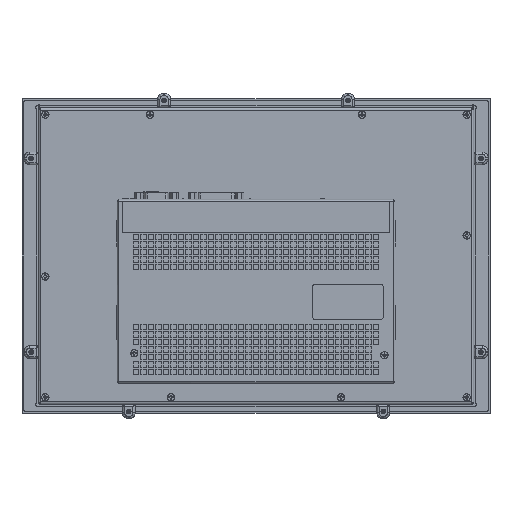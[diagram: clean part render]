
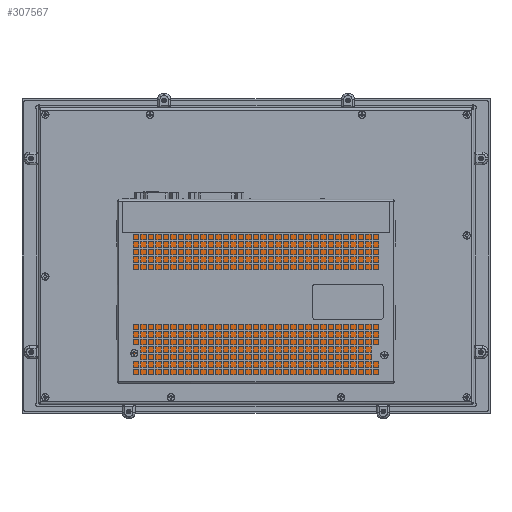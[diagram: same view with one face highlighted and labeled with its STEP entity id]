
A CAD part, front view. The second image highlights one B-rep face of the part: STEP entity #307567.
In plain terms, the highlighted planar face has unit normal (0, -1, 0) as drawn and (0, 0, 1) by its records, which use the part's own axes.
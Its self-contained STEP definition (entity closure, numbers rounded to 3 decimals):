
#1339 = LINE ( 'NONE', #277227, #98671 ) ;
#20560 = CARTESIAN_POINT ( 'NONE',  ( 95.07, 126.271, 27. ) ) ;
#20783 = LINE ( 'NONE', #112256, #106235 ) ;
#21273 = EDGE_LOOP ( 'NONE', ( #225576, #178600, #50317, #249119 ) ) ;
#41909 = CARTESIAN_POINT ( 'NONE',  ( -1.88, 126.271, 27. ) ) ;
#50317 = ORIENTED_EDGE ( 'NONE', *, *, #65908, .T. ) ;
#57187 = AXIS2_PLACEMENT_3D ( 'NONE', #281665, #233738, #108787 ) ;
#58488 = VECTOR ( 'NONE', #264095, 1000. ) ;
#59902 = DIRECTION ( 'NONE',  ( 0., -1., 0. ) ) ;
#65908 = EDGE_CURVE ( 'NONE', #115875, #92177, #1339, .T. ) ;
#83138 = VERTEX_POINT ( 'NONE', #284890 ) ;
#92177 = VERTEX_POINT ( 'NONE', #111633 ) ;
#94995 = VERTEX_POINT ( 'NONE', #41909 ) ;
#98671 = VECTOR ( 'NONE', #200028, 1000. ) ;
#100805 = LINE ( 'NONE', #242476, #159171 ) ;
#106235 = VECTOR ( 'NONE', #185134, 1000. ) ;
#108787 = DIRECTION ( 'NONE',  ( 1., 0., 0. ) ) ;
#111633 = CARTESIAN_POINT ( 'NONE',  ( 192.02, 126.271, 27. ) ) ;
#112256 = CARTESIAN_POINT ( 'NONE',  ( 95.07, -1.129, 27. ) ) ;
#115875 = VERTEX_POINT ( 'NONE', #240962 ) ;
#159171 = VECTOR ( 'NONE', #59902, 1000. ) ;
#178600 = ORIENTED_EDGE ( 'NONE', *, *, #191319, .T. ) ;
#185134 = DIRECTION ( 'NONE',  ( 1., 0., 0. ) ) ;
#191319 = EDGE_CURVE ( 'NONE', #83138, #115875, #20783, .T. ) ;
#194339 = EDGE_CURVE ( 'NONE', #94995, #83138, #100805, .T. ) ;
#200028 = DIRECTION ( 'NONE',  ( 0., 1., 0. ) ) ;
#225576 = ORIENTED_EDGE ( 'NONE', *, *, #194339, .T. ) ;
#233738 = DIRECTION ( 'NONE',  ( 0., 0., 1. ) ) ;
#237058 = EDGE_CURVE ( 'NONE', #92177, #94995, #256869, .T. ) ;
#240962 = CARTESIAN_POINT ( 'NONE',  ( 192.02, -1.129, 27. ) ) ;
#242476 = CARTESIAN_POINT ( 'NONE',  ( -1.88, 62.571, 27. ) ) ;
#249119 = ORIENTED_EDGE ( 'NONE', *, *, #237058, .T. ) ;
#256869 = LINE ( 'NONE', #20560, #58488 ) ;
#264095 = DIRECTION ( 'NONE',  ( -1., 0., 0. ) ) ;
#277227 = CARTESIAN_POINT ( 'NONE',  ( 192.02, 62.571, 27. ) ) ;
#281665 = CARTESIAN_POINT ( 'NONE',  ( 95.07, 62.571, 27. ) ) ;
#284890 = CARTESIAN_POINT ( 'NONE',  ( -1.88, -1.129, 27. ) ) ;
#298161 = FACE_OUTER_BOUND ( 'NONE', #21273, .T. ) ;
#305554 = PLANE ( 'NONE',  #57187 ) ;
#307567 = ADVANCED_FACE ( 'NONE', ( #298161 ), #305554, .T. ) ;
